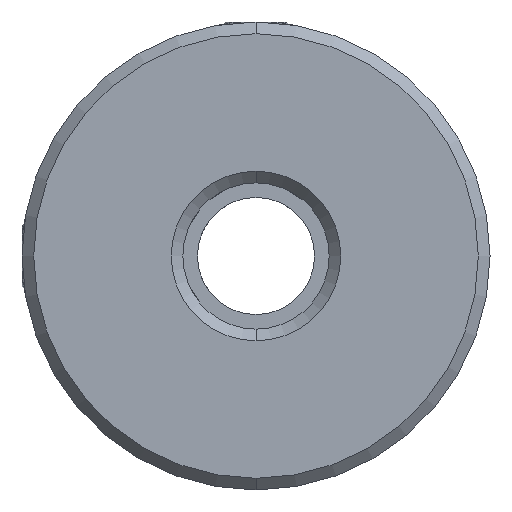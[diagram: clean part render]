
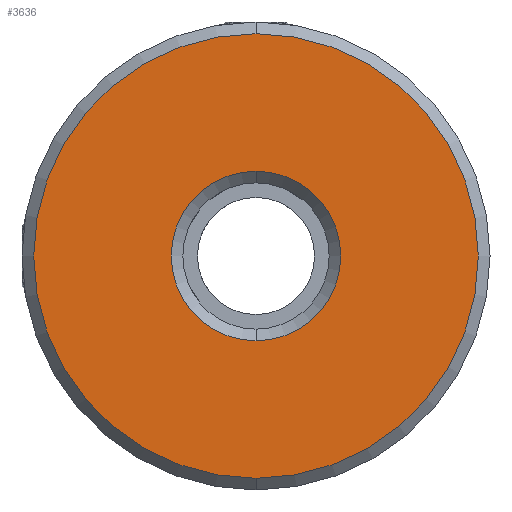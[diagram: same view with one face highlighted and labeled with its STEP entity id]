
A CAD part, front view. The second image highlights one B-rep face of the part: STEP entity #3636.
In plain terms, the highlighted planar face has unit normal (0, -1, 0).
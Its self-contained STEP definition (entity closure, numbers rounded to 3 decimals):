
#34 = AXIS2_PLACEMENT_3D ( 'NONE', #2228, #2513, #779 ) ;
#41 = VERTEX_POINT ( 'NONE', #2742 ) ;
#320 = AXIS2_PLACEMENT_3D ( 'NONE', #1194, #2668, #916 ) ;
#404 = AXIS2_PLACEMENT_3D ( 'NONE', #3014, #2697, #2389 ) ;
#444 = ORIENTED_EDGE ( 'NONE', *, *, #3690, .T. ) ;
#659 = CIRCLE ( 'NONE', #404, 15.2 ) ;
#700 = VERTEX_POINT ( 'NONE', #2825 ) ;
#702 = CIRCLE ( 'NONE', #2205, 15.2 ) ;
#755 = ORIENTED_EDGE ( 'NONE', *, *, #2889, .T. ) ;
#779 = DIRECTION ( 'NONE',  ( 0., 0., 1. ) ) ;
#789 = VERTEX_POINT ( 'NONE', #1790 ) ;
#851 = CARTESIAN_POINT ( 'NONE',  ( -10.188, -0.277, 0.046 ) ) ;
#916 = DIRECTION ( 'NONE',  ( 0., 0., 1. ) ) ;
#967 = FACE_OUTER_BOUND ( 'NONE', #3437, .T. ) ;
#1194 = CARTESIAN_POINT ( 'NONE',  ( -10.188, -0.277, 0.046 ) ) ;
#1204 = CARTESIAN_POINT ( 'NONE',  ( -10.188, -0.277, 0.046 ) ) ;
#1425 = AXIS2_PLACEMENT_3D ( 'NONE', #1204, #2937, #3267 ) ;
#1488 = EDGE_CURVE ( 'NONE', #1495, #789, #2764, .T. ) ;
#1491 = ORIENTED_EDGE ( 'NONE', *, *, #1488, .T. ) ;
#1495 = VERTEX_POINT ( 'NONE', #2678 ) ;
#1790 = CARTESIAN_POINT ( 'NONE',  ( -10.188, -0.277, -5.754 ) ) ;
#1834 = CIRCLE ( 'NONE', #320, 5.8 ) ;
#1997 = DIRECTION ( 'NONE',  ( 0., -1., 0. ) ) ;
#2120 = FACE_BOUND ( 'NONE', #2422, .T. ) ;
#2159 = ORIENTED_EDGE ( 'NONE', *, *, #2380, .T. ) ;
#2205 = AXIS2_PLACEMENT_3D ( 'NONE', #851, #1997, #3159 ) ;
#2228 = CARTESIAN_POINT ( 'NONE',  ( -10.188, -0.277, 0.046 ) ) ;
#2380 = EDGE_CURVE ( 'NONE', #789, #1495, #1834, .T. ) ;
#2389 = DIRECTION ( 'NONE',  ( 0., 0., 1. ) ) ;
#2422 = EDGE_LOOP ( 'NONE', ( #2159, #1491 ) ) ;
#2513 = DIRECTION ( 'NONE',  ( 0., 1., 0. ) ) ;
#2668 = DIRECTION ( 'NONE',  ( 0., 1., 0. ) ) ;
#2678 = CARTESIAN_POINT ( 'NONE',  ( -10.188, -0.277, 5.846 ) ) ;
#2697 = DIRECTION ( 'NONE',  ( 0., -1., 0. ) ) ;
#2742 = CARTESIAN_POINT ( 'NONE',  ( -10.188, -0.277, 15.246 ) ) ;
#2764 = CIRCLE ( 'NONE', #1425, 5.8 ) ;
#2825 = CARTESIAN_POINT ( 'NONE',  ( -10.188, -0.277, -15.154 ) ) ;
#2889 = EDGE_CURVE ( 'NONE', #700, #41, #702, .T. ) ;
#2937 = DIRECTION ( 'NONE',  ( 0., 1., 0. ) ) ;
#3014 = CARTESIAN_POINT ( 'NONE',  ( -10.188, -0.277, 0.046 ) ) ;
#3159 = DIRECTION ( 'NONE',  ( 0., 0., 1. ) ) ;
#3267 = DIRECTION ( 'NONE',  ( 0., 0., 1. ) ) ;
#3285 = PLANE ( 'NONE',  #34 ) ;
#3437 = EDGE_LOOP ( 'NONE', ( #444, #755 ) ) ;
#3636 = ADVANCED_FACE ( 'NONE', ( #967, #2120 ), #3285, .F. ) ;
#3690 = EDGE_CURVE ( 'NONE', #41, #700, #659, .T. ) ;
